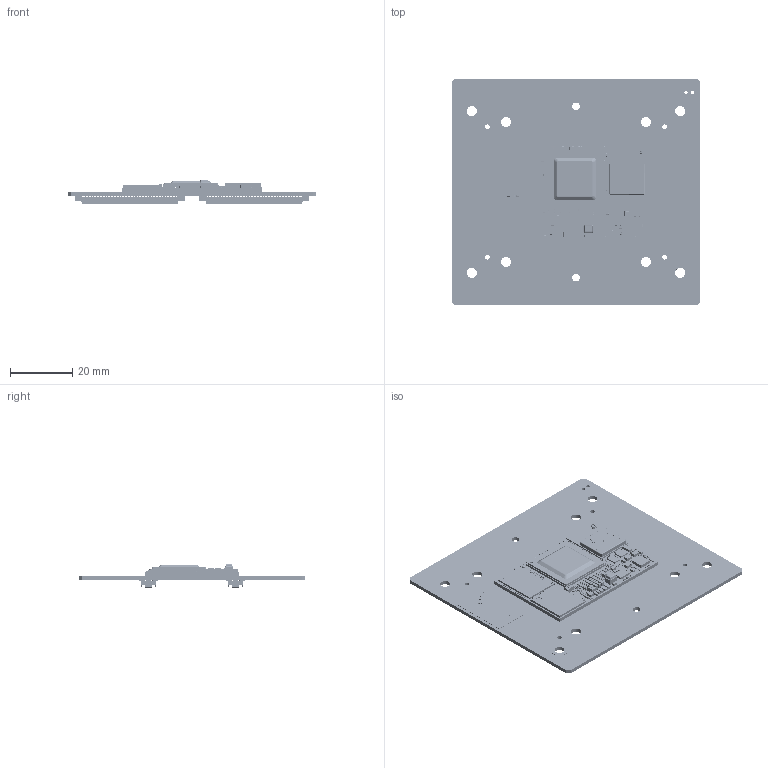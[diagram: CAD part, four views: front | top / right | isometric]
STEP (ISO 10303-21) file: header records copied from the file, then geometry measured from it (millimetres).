
FILE_DESCRIPTION (( 'STEP AP203' ), '1' );
FILE_NAME ('940-00116.STEP', '2026-07-23T12:32:50', ( '' ), ( '' ), 'SwSTEP 2.0', 'SolidWorks 2025', '' );
FILE_SCHEMA (( 'CONFIG_CONTROL_DESIGN' ));
Products named in the file (1): 940-00116
Bounding box: 80 x 73 x 7.69 mm (x, y, z)
Surface area: 26853.1 mm2 (no closed solid volume)
Topology: 0 solids, 3550 shells, 46606 faces, 117235 edges, 75651 vertices
Faces by surface type: plane 38998, cylinder 4137, sphere 2314, bspline 1149, cone 6, torus 2
Entity records: 1390524 total; most frequent: CARTESIAN_POINT 307101, ORIENTED_EDGE 227982, DIRECTION 207749, EDGE_CURVE 114036, LINE 100743, VECTOR 100743, VERTEX_POINT 74762, AXIS2_PLACEMENT_3D 53503
